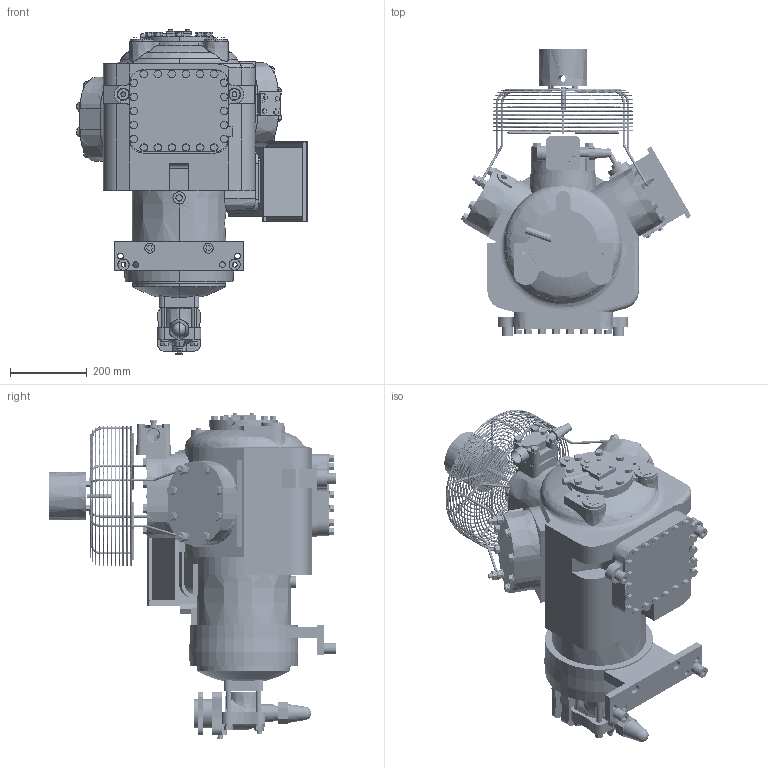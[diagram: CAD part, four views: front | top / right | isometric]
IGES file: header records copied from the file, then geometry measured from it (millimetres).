
Start section:  PTC IGES file: 06e61ehslf_sv_6fn_sw0001.igs
Global section: file name: 06e61ehslf_sv_6fn_sw0001.igs; native system: Pro/ENGINEER by Parametric Technology Corporation; preprocessor: 2001280; author: kannanb; organization: Unknown; date: 040122.202837; units: inch
Bounding box: 599.07 x 749.62 x 846.75 mm (x, y, z)
Surface area: 2584790.6 mm2 (no closed solid volume)
Topology: 0 solids, 0 shells, 1562 faces, 7662 edges, 7660 vertices
Faces by surface type: bspline 974, revolution 588
